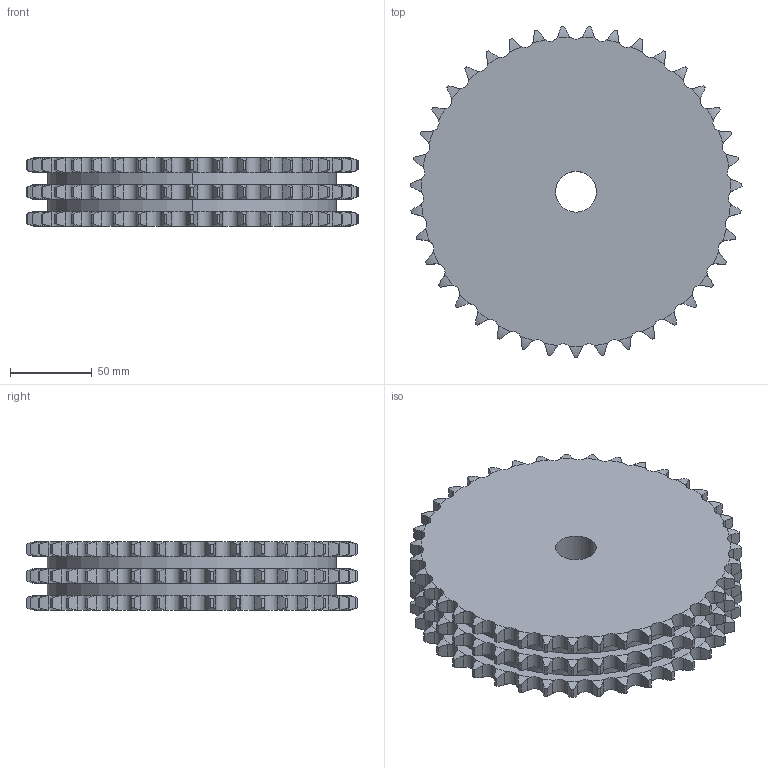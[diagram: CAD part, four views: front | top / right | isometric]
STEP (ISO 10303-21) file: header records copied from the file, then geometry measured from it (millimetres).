
FILE_DESCRIPTION((''),'2;1');
FILE_NAME('500-303-0039_PRT','2021-02-12T',('Brieden'),('Brieden'),'PRO/ENGINEER BY PARAMETRIC TECHNOLOGY CORPORATION, 2010160','PRO/ENGINEER BY PARAMETRIC TECHNOLOGY CORPORATION, 2010160','');
FILE_SCHEMA(('AUTOMOTIVE_DESIGN { 1 0 10303 214 1 1 1 1 }'));
Length unit declared in the file: millimetre
Products named in the file (1): 500-303-0039_PRT
Bounding box: 203.55 x 203.38 x 42.1 mm (x, y, z)
Volume: 1142886.9 mm3; surface area: 111985 mm2
Topology: 1 solids, 1 shells, 714 faces, 2124 edges, 1416 vertices
Faces by surface type: cylinder 474, torus 234, plane 6
Entity records: 34795 total; most frequent: CARTESIAN_POINT 10336, ORIENTED_EDGE 4248, DIRECTION 3330, PRESENTATION_STYLE_ASSIGNMENT 2125, STYLED_ITEM 2125, CURVE_STYLE 2124, EDGE_CURVE 2124, AXIS2_PLACEMENT_3D 1428
